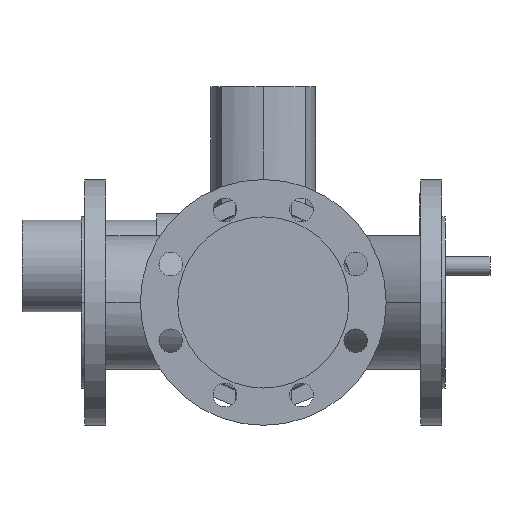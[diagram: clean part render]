
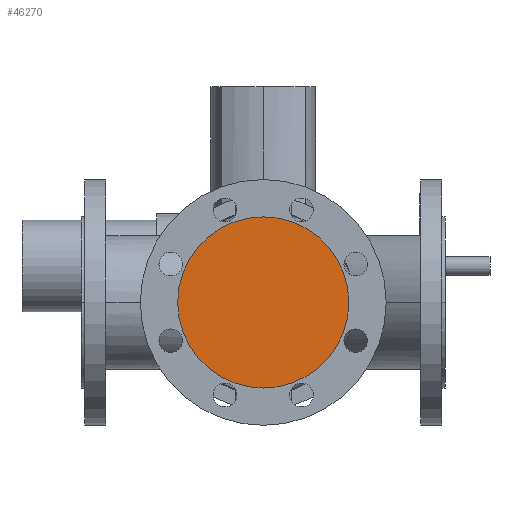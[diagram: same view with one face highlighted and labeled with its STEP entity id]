
A CAD part, front view. The second image highlights one B-rep face of the part: STEP entity #46270.
In plain terms, the highlighted planar face has unit normal (0, -1, 0).
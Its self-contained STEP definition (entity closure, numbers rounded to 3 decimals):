
#5920=CARTESIAN_POINT('',(294.,-200.,0.));
#5930=VERTEX_POINT('',#5920);
#6090=CARTESIAN_POINT('',(106.,-200.,0.));
#6100=VERTEX_POINT('',#6090);
#6130=CARTESIAN_POINT('',(200.,-200.,0.));
#6140=DIRECTION('',(0.,1.,0.));
#6150=DIRECTION('',(1.,0.,0.));
#6160=AXIS2_PLACEMENT_3D('',#6130,#6140,#6150);
#6170=CIRCLE('',#6160,94.);
#6180=EDGE_CURVE('',#5930,#6100,#6170,.T.);
#46170=CARTESIAN_POINT('',(247.,-200.,0.));
#46180=DIRECTION('',(0.,-1.,0.));
#46190=DIRECTION('',(-1.,0.,0.));
#46200=AXIS2_PLACEMENT_3D('',#46170,#46180,#46190);
#46210=PLANE('',#46200);
#46220=EDGE_CURVE('',#6100,#5930,#6170,.T.);
#46230=ORIENTED_EDGE('',*,*,#46220,.F.);
#46240=ORIENTED_EDGE('',*,*,#6180,.F.);
#46250=EDGE_LOOP('',(#46240,#46230));
#46260=FACE_OUTER_BOUND('',#46250,.T.);
#46270=ADVANCED_FACE('',(#46260),#46210,.T.);
